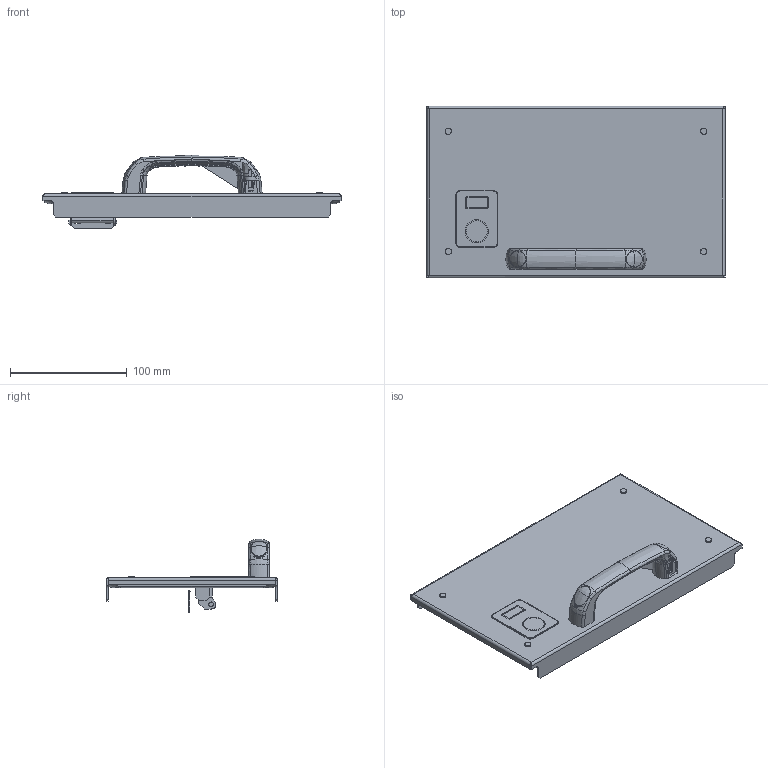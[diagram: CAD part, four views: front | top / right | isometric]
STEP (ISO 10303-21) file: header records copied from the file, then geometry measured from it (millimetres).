
FILE_DESCRIPTION(('CAx-IF Rec.Pracs.---Model Styling and Organization---1.2---2011-12-15','CAx-IF Rec.Pracs.---Geometric and Assembly Validation Properties---4.1---2014-06-16','CAx-IF Rec.Pracs.---PMI Polyline Presentation---2.0---2013-05-24'),'2;1');
FILE_NAME('R5M2W3M2BF.stp','2021-05-05T12:14:37+03:00',(''),(''),'STEP Interface 4.4 by CT CoreTechnologie','3D_Evolution4.4 by CT CoreTechnologie','');
FILE_SCHEMA(('AUTOMOTIVE_DESIGN { 1 0 10303 214 1 1 1 1 }'));
Length unit declared in the file: millimetre
Products named in the file (15): R5M2W3M2BF; 5-GOST 11371-78 (DIN 125) PA 6.6_5-GOST 11371-78 (DIN 125) PA 6.6; RB.1215.01.00.0 ÑÁ_-04; AC00C061_AC00C061; Ì6õ12-A5100231_straight; RB.1503.00.06.0_-00; RB.1503.00.07.0_-00; RB.1503.00.08.0_'­ ª«¥¥­­ ï'; RB.1215.01.01.0_-04; RB.1503.00.03.0_123; RB.1503.00.05.0_123; PF 7x14 RAMmcc 2.0_1x2; 4.444.001; PR.DT477.100.02; PR.DT477.100.01
Assembly tree (17 placements, depth 3):
  R5M2W3M2BF
    5-GOST 11371-78 (DIN 125) PA 6.6_5-GOST 11371-78 (DIN 125) PA 6.6  x4
    RB.1215.01.00.0 ÑÁ_-04
      AC00C061_AC00C061
      Ì6õ12-A5100231_straight
      RB.1503.00.06.0_-00
      RB.1503.00.07.0_-00
      RB.1215.01.01.0_-04
      RB.1503.00.03.0_123
      RB.1503.00.05.0_123
      PF 7x14 RAMmcc 2.0_1x2
    4.444.001
      PR.DT477.100.02  x2
      PR.DT477.100.01
  RB.1503.00.08.0_'­ ª«¥¥­­ ï'
Bounding box: 255.5 x 147 x 62.85 mm (x, y, z)
Surface area: 147660 mm2 (no closed solid volume)
Topology: 0 solids, 23 shells, 1236 faces, 3002 edges, 1803 vertices
Faces by surface type: bspline 660, plane 403, cylinder 173
Entity records: 52458 total; most frequent: CARTESIAN_POINT 27019, ORIENTED_EDGE 5470, DIRECTION 4860, EDGE_CURVE 2735, AXIS2_PLACEMENT_3D 1837, VERTEX_POINT 1654, CIRCLE 1312, VECTOR 1186
